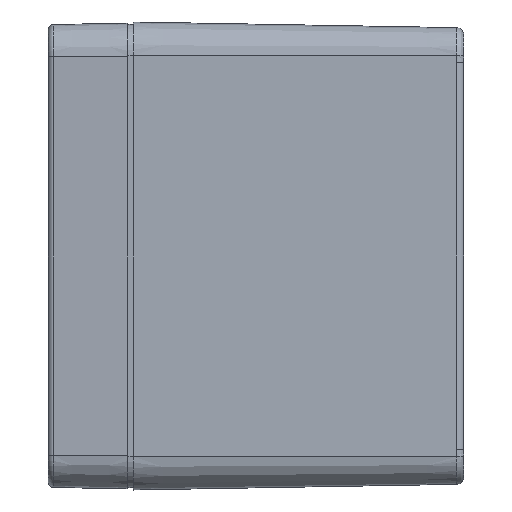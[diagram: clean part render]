
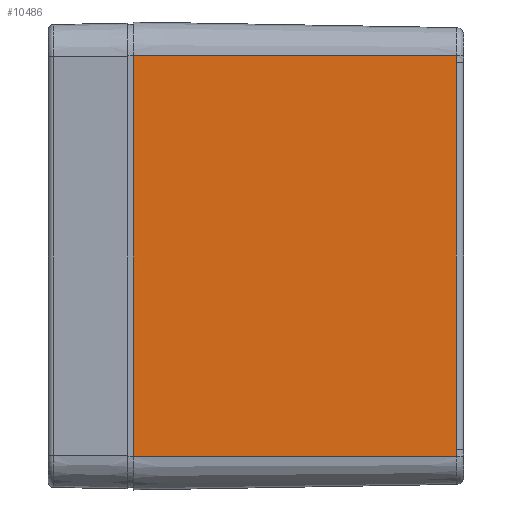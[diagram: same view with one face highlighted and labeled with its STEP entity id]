
A CAD part, left-side view. The second image highlights one B-rep face of the part: STEP entity #10486.
In plain terms, the highlighted planar face has unit normal (-1, -0.018, 0).
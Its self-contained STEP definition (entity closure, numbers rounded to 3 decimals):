
#763 = CARTESIAN_POINT ( 'NONE',  ( -56.543, -63.426, 37.37 ) ) ;
#1479 = CARTESIAN_POINT ( 'NONE',  ( -57.633, -1., -38.75 ) ) ;
#2244 = CARTESIAN_POINT ( 'NONE',  ( -56.542, -63.467, -38.75 ) ) ;
#2317 = VERTEX_POINT ( 'NONE', #1479 ) ;
#3379 = CARTESIAN_POINT ( 'NONE',  ( -57.65, 0., 38.75 ) ) ;
#3463 = ORIENTED_EDGE ( 'NONE', *, *, #31340, .T. ) ;
#4821 = DIRECTION ( 'NONE',  ( 0., 0., 1. ) ) ;
#5053 = VECTOR ( 'NONE', #4821, 1000. ) ;
#5617 = CARTESIAN_POINT ( 'NONE',  ( -56.543, -63.426, -37.831 ) ) ;
#6268 = EDGE_CURVE ( 'NONE', #20686, #22024, #13376, .T. ) ;
#6598 = DIRECTION ( 'NONE',  ( -0.017, 1., 0. ) ) ;
#6615 = PLANE ( 'NONE',  #8738 ) ;
#6875 = VECTOR ( 'NONE', #32110, 1000. ) ;
#7154 = B_SPLINE_CURVE_WITH_KNOTS ( 'NONE', 3,
 ( #42535, #17108, #31819, #24002 ),
 .UNSPECIFIED., .F., .F.,
 ( 4, 4 ),
 ( 0., 0.001 ),
 .UNSPECIFIED. ) ;
#7211 = ORIENTED_EDGE ( 'NONE', *, *, #10684, .T. ) ;
#7404 = LINE ( 'NONE', #29954, #42229 ) ;
#8738 = AXIS2_PLACEMENT_3D ( 'NONE', #13975, #20650, #25141 ) ;
#10178 = FACE_OUTER_BOUND ( 'NONE', #29161, .T. ) ;
#10486 = ADVANCED_FACE ( 'NONE', ( #10178 ), #6615, .T. ) ;
#10684 = EDGE_CURVE ( 'NONE', #35021, #23446, #24661, .T. ) ;
#11730 = ORIENTED_EDGE ( 'NONE', *, *, #14797, .F. ) ;
#13376 = LINE ( 'NONE', #3379, #6875 ) ;
#13975 = CARTESIAN_POINT ( 'NONE',  ( -57.65, 0., 38.75 ) ) ;
#14555 = VECTOR ( 'NONE', #6598, 1000. ) ;
#14797 = EDGE_CURVE ( 'NONE', #35021, #2317, #27502, .T. ) ;
#17108 = CARTESIAN_POINT ( 'NONE',  ( -56.543, -63.426, 37.83 ) ) ;
#18152 = ORIENTED_EDGE ( 'NONE', *, *, #22547, .T. ) ;
#19561 = LINE ( 'NONE', #30472, #5053 ) ;
#19960 = ORIENTED_EDGE ( 'NONE', *, *, #31532, .T. ) ;
#20650 = DIRECTION ( 'NONE',  ( -1., -0.017, 0. ) ) ;
#20686 = VERTEX_POINT ( 'NONE', #35156 ) ;
#22024 = VERTEX_POINT ( 'NONE', #32869 ) ;
#22547 = EDGE_CURVE ( 'NONE', #28669, #20686, #7154, .T. ) ;
#23446 = VERTEX_POINT ( 'NONE', #44468 ) ;
#24002 = CARTESIAN_POINT ( 'NONE',  ( -56.542, -63.467, 38.75 ) ) ;
#24661 = B_SPLINE_CURVE_WITH_KNOTS ( 'NONE', 3,
 ( #27005, #41744, #5617, #41511 ),
 .UNSPECIFIED., .F., .F.,
 ( 4, 4 ),
 ( 0., 0.001 ),
 .UNSPECIFIED. ) ;
#25141 = DIRECTION ( 'NONE',  ( 0.017, -1., 0. ) ) ;
#25932 = DIRECTION ( 'NONE',  ( 0., 0., -1. ) ) ;
#27005 = CARTESIAN_POINT ( 'NONE',  ( -56.542, -63.467, -38.75 ) ) ;
#27502 = LINE ( 'NONE', #35095, #14555 ) ;
#28669 = VERTEX_POINT ( 'NONE', #763 ) ;
#29161 = EDGE_LOOP ( 'NONE', ( #37130, #19960, #11730, #7211, #3463, #18152 ) ) ;
#29954 = CARTESIAN_POINT ( 'NONE',  ( -57.633, -1., 38.75 ) ) ;
#30472 = CARTESIAN_POINT ( 'NONE',  ( -56.543, -63.426, 38.75 ) ) ;
#31340 = EDGE_CURVE ( 'NONE', #23446, #28669, #19561, .T. ) ;
#31532 = EDGE_CURVE ( 'NONE', #22024, #2317, #7404, .T. ) ;
#31819 = CARTESIAN_POINT ( 'NONE',  ( -56.542, -63.46, 38.29 ) ) ;
#32110 = DIRECTION ( 'NONE',  ( -0.017, 1., 0. ) ) ;
#32869 = CARTESIAN_POINT ( 'NONE',  ( -57.633, -1., 38.75 ) ) ;
#35021 = VERTEX_POINT ( 'NONE', #2244 ) ;
#35095 = CARTESIAN_POINT ( 'NONE',  ( -57.65, 0., -38.75 ) ) ;
#35156 = CARTESIAN_POINT ( 'NONE',  ( -56.542, -63.467, 38.75 ) ) ;
#37130 = ORIENTED_EDGE ( 'NONE', *, *, #6268, .T. ) ;
#41511 = CARTESIAN_POINT ( 'NONE',  ( -56.543, -63.426, -37.37 ) ) ;
#41744 = CARTESIAN_POINT ( 'NONE',  ( -56.542, -63.46, -38.29 ) ) ;
#42229 = VECTOR ( 'NONE', #25932, 1000. ) ;
#42535 = CARTESIAN_POINT ( 'NONE',  ( -56.543, -63.426, 37.37 ) ) ;
#44468 = CARTESIAN_POINT ( 'NONE',  ( -56.543, -63.426, -37.37 ) ) ;
